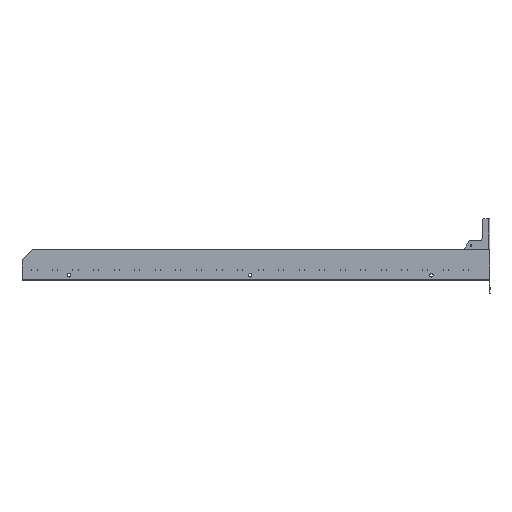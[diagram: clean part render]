
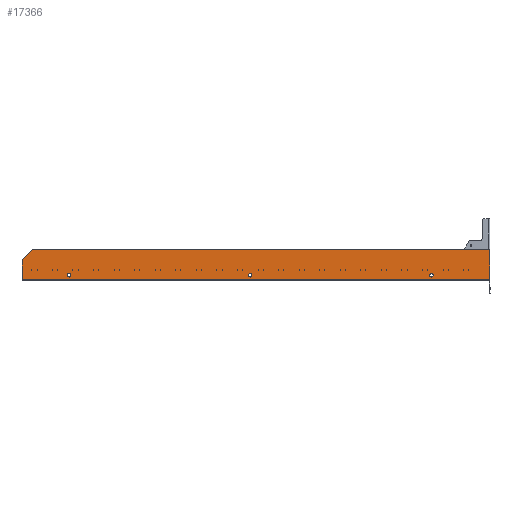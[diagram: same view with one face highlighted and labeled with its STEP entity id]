
A CAD part, left-side view. The second image highlights one B-rep face of the part: STEP entity #17366.
In plain terms, the highlighted planar face has unit normal (-1, 0, 0).
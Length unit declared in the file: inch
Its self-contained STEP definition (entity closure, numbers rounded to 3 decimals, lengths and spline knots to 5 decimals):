
#370 = CARTESIAN_POINT ( 'NONE',  ( 0., -34.1325, 1. ) ) ;
#607 = EDGE_CURVE ( 'NONE', #1805, #11373, #17992, .T. ) ;
#1023 = EDGE_CURVE ( 'NONE', #8349, #7256, #1454, .T. ) ;
#1090 = DIRECTION ( 'NONE',  ( -1., 0., 0. ) ) ;
#1189 = CARTESIAN_POINT ( 'NONE',  ( 0., -34.1325, 1.336 ) ) ;
#1271 = FACE_BOUND ( 'NONE', #16087, .T. ) ;
#1454 = LINE ( 'NONE', #16966, #20912 ) ;
#1613 = DIRECTION ( 'NONE',  ( 0., 0., 1. ) ) ;
#1805 = VERTEX_POINT ( 'NONE', #17141 ) ;
#1969 = CIRCLE ( 'NONE', #6550, 0.336 ) ;
#2059 = CARTESIAN_POINT ( 'NONE',  ( 0., -45.525, 6. ) ) ;
#2562 = DIRECTION ( 'NONE',  ( 0., -1., 0. ) ) ;
#3176 = CARTESIAN_POINT ( 'NONE',  ( 0., -34.1325, 1. ) ) ;
#3517 = EDGE_CURVE ( 'NONE', #7950, #6511, #21642, .T. ) ;
#4023 = EDGE_CURVE ( 'NONE', #8349, #6511, #14191, .T. ) ;
#4067 = EDGE_LOOP ( 'NONE', ( #25572, #20946 ) ) ;
#4245 = EDGE_LOOP ( 'NONE', ( #12459, #12925 ) ) ;
#4323 = CARTESIAN_POINT ( 'NONE',  ( 0., -45.525, 0. ) ) ;
#4412 = VECTOR ( 'NONE', #11614, 39.37008 ) ;
#4460 = EDGE_CURVE ( 'NONE', #11373, #1805, #9442, .T. ) ;
#4625 = CIRCLE ( 'NONE', #15872, 0.336 ) ;
#4707 = CARTESIAN_POINT ( 'NONE',  ( 0., 36.3675, 0.664 ) ) ;
#4815 = EDGE_CURVE ( 'NONE', #21796, #21897, #1969, .T. ) ;
#5069 = CARTESIAN_POINT ( 'NONE',  ( 0., 43.525, 6. ) ) ;
#5449 = VECTOR ( 'NONE', #2562, 39.37008 ) ;
#5568 = CARTESIAN_POINT ( 'NONE',  ( 0., -34.1325, 0.664 ) ) ;
#6511 = VERTEX_POINT ( 'NONE', #16192 ) ;
#6527 = LINE ( 'NONE', #4323, #16330 ) ;
#6550 = AXIS2_PLACEMENT_3D ( 'NONE', #18957, #17011, #24921 ) ;
#6996 = PLANE ( 'NONE',  #20014 ) ;
#7256 = VERTEX_POINT ( 'NONE', #2059 ) ;
#7817 = DIRECTION ( 'NONE',  ( 0., 0.707, -0.707 ) ) ;
#7950 = VERTEX_POINT ( 'NONE', #10609 ) ;
#8349 = VERTEX_POINT ( 'NONE', #5069 ) ;
#9442 = CIRCLE ( 'NONE', #25221, 0.336 ) ;
#10206 = EDGE_CURVE ( 'NONE', #23228, #7256, #6527, .T. ) ;
#10291 = VERTEX_POINT ( 'NONE', #5568 ) ;
#10400 = DIRECTION ( 'NONE',  ( 0., 0., 1. ) ) ;
#10609 = CARTESIAN_POINT ( 'NONE',  ( 0., 45.525, 0.208 ) ) ;
#10637 = EDGE_CURVE ( 'NONE', #7950, #23228, #24299, .T. ) ;
#10638 = AXIS2_PLACEMENT_3D ( 'NONE', #3176, #11136, #19076 ) ;
#10873 = CARTESIAN_POINT ( 'NONE',  ( 0., 1.1175, 1. ) ) ;
#10902 = CARTESIAN_POINT ( 'NONE',  ( 0., 45.525, 0.208 ) ) ;
#10947 = EDGE_CURVE ( 'NONE', #21897, #21796, #4625, .T. ) ;
#11136 = DIRECTION ( 'NONE',  ( -1., 0., 0. ) ) ;
#11256 = CARTESIAN_POINT ( 'NONE',  ( 0., -45.525, 0.208 ) ) ;
#11373 = VERTEX_POINT ( 'NONE', #4707 ) ;
#11422 = FACE_BOUND ( 'NONE', #4067, .T. ) ;
#11611 = VERTEX_POINT ( 'NONE', #1189 ) ;
#11614 = DIRECTION ( 'NONE',  ( 0., 0., 1. ) ) ;
#11786 = ORIENTED_EDGE ( 'NONE', *, *, #10637, .T. ) ;
#12267 = DIRECTION ( 'NONE',  ( 0., 0., 1. ) ) ;
#12352 = AXIS2_PLACEMENT_3D ( 'NONE', #370, #24309, #10400 ) ;
#12459 = ORIENTED_EDGE ( 'NONE', *, *, #607, .F. ) ;
#12925 = ORIENTED_EDGE ( 'NONE', *, *, #4460, .F. ) ;
#14191 = LINE ( 'NONE', #17854, #20649 ) ;
#14774 = CIRCLE ( 'NONE', #10638, 0.336 ) ;
#15134 = DIRECTION ( 'NONE',  ( 0., -1., 0. ) ) ;
#15589 = CARTESIAN_POINT ( 'NONE',  ( 0., 36.3675, 1. ) ) ;
#15643 = EDGE_CURVE ( 'NONE', #11611, #10291, #14774, .T. ) ;
#15872 = AXIS2_PLACEMENT_3D ( 'NONE', #10873, #18817, #20243 ) ;
#16087 = EDGE_LOOP ( 'NONE', ( #17734, #21613 ) ) ;
#16192 = CARTESIAN_POINT ( 'NONE',  ( 0., 45.525, 4. ) ) ;
#16330 = VECTOR ( 'NONE', #12267, 39.37008 ) ;
#16598 = ORIENTED_EDGE ( 'NONE', *, *, #10206, .T. ) ;
#16732 = AXIS2_PLACEMENT_3D ( 'NONE', #25433, #1090, #1613 ) ;
#16966 = CARTESIAN_POINT ( 'NONE',  ( 0., 45.525, 6. ) ) ;
#17011 = DIRECTION ( 'NONE',  ( -1., 0., 0. ) ) ;
#17111 = CARTESIAN_POINT ( 'NONE',  ( 0., 45.525, 0. ) ) ;
#17141 = CARTESIAN_POINT ( 'NONE',  ( 0., 36.3675, 1.336 ) ) ;
#17177 = DIRECTION ( 'NONE',  ( 0., 0., -1. ) ) ;
#17366 = ADVANCED_FACE ( 'NONE', ( #23016, #1271, #11422, #19369 ), #6996, .F. ) ;
#17689 = DIRECTION ( 'NONE',  ( 0., 0., 1. ) ) ;
#17734 = ORIENTED_EDGE ( 'NONE', *, *, #15643, .F. ) ;
#17854 = CARTESIAN_POINT ( 'NONE',  ( 0., 43.525, 6. ) ) ;
#17992 = CIRCLE ( 'NONE', #16732, 0.336 ) ;
#18817 = DIRECTION ( 'NONE',  ( -1., 0., 0. ) ) ;
#18935 = CARTESIAN_POINT ( 'NONE',  ( 0., 1.1175, 0.664 ) ) ;
#18957 = CARTESIAN_POINT ( 'NONE',  ( 0., 1.1175, 1. ) ) ;
#19076 = DIRECTION ( 'NONE',  ( 0., 0., 1. ) ) ;
#19369 = FACE_OUTER_BOUND ( 'NONE', #24613, .T. ) ;
#19892 = DIRECTION ( 'NONE',  ( -1., 0., 0. ) ) ;
#20014 = AXIS2_PLACEMENT_3D ( 'NONE', #21442, #23264, #17177 ) ;
#20240 = ORIENTED_EDGE ( 'NONE', *, *, #1023, .F. ) ;
#20243 = DIRECTION ( 'NONE',  ( 0., 0., 1. ) ) ;
#20649 = VECTOR ( 'NONE', #7817, 39.37008 ) ;
#20883 = ORIENTED_EDGE ( 'NONE', *, *, #4023, .T. ) ;
#20912 = VECTOR ( 'NONE', #15134, 39.37008 ) ;
#20946 = ORIENTED_EDGE ( 'NONE', *, *, #10947, .F. ) ;
#21442 = CARTESIAN_POINT ( 'NONE',  ( 0., 45.525, 0. ) ) ;
#21613 = ORIENTED_EDGE ( 'NONE', *, *, #24328, .F. ) ;
#21642 = LINE ( 'NONE', #17111, #4412 ) ;
#21796 = VERTEX_POINT ( 'NONE', #22209 ) ;
#21897 = VERTEX_POINT ( 'NONE', #18935 ) ;
#22209 = CARTESIAN_POINT ( 'NONE',  ( 0., 1.1175, 1.336 ) ) ;
#23016 = FACE_BOUND ( 'NONE', #4245, .T. ) ;
#23228 = VERTEX_POINT ( 'NONE', #11256 ) ;
#23264 = DIRECTION ( 'NONE',  ( 1., 0., 0. ) ) ;
#24126 = ORIENTED_EDGE ( 'NONE', *, *, #3517, .F. ) ;
#24299 = LINE ( 'NONE', #10902, #5449 ) ;
#24309 = DIRECTION ( 'NONE',  ( -1., 0., 0. ) ) ;
#24328 = EDGE_CURVE ( 'NONE', #10291, #11611, #24383, .T. ) ;
#24383 = CIRCLE ( 'NONE', #12352, 0.336 ) ;
#24613 = EDGE_LOOP ( 'NONE', ( #20240, #20883, #24126, #11786, #16598 ) ) ;
#24921 = DIRECTION ( 'NONE',  ( 0., 0., 1. ) ) ;
#25221 = AXIS2_PLACEMENT_3D ( 'NONE', #15589, #19892, #17689 ) ;
#25433 = CARTESIAN_POINT ( 'NONE',  ( 0., 36.3675, 1. ) ) ;
#25572 = ORIENTED_EDGE ( 'NONE', *, *, #4815, .F. ) ;
